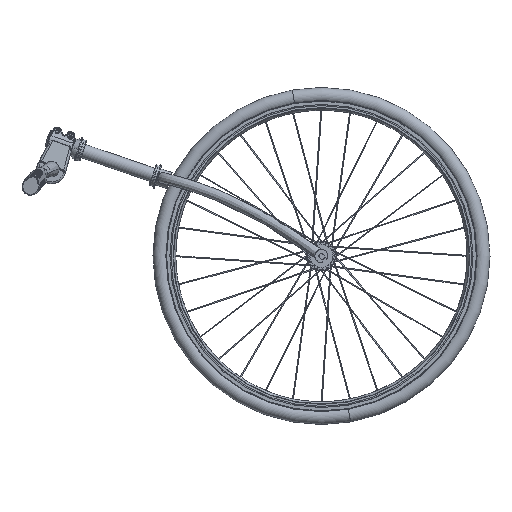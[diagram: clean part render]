
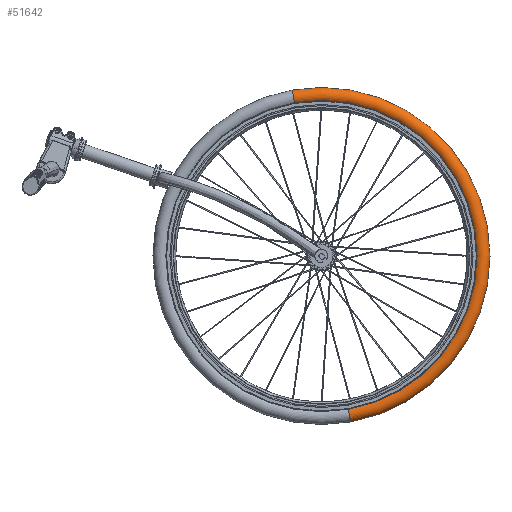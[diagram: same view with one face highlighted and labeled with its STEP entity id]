
A CAD part, left-side view. The second image highlights one B-rep face of the part: STEP entity #51642.
In plain terms, the highlighted toroidal (fillet/blend) face has major radius 330.787 mm and minor radius 16 mm.
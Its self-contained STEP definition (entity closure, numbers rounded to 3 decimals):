
#2559 = CARTESIAN_POINT ( 'NONE',  ( 0., 0., -330.787 ) ) ;
#3284 = AXIS2_PLACEMENT_3D ( 'NONE', #7121, #40386, #28229 ) ;
#7121 = CARTESIAN_POINT ( 'NONE',  ( 10.5, 0., 0. ) ) ;
#7433 = FACE_OUTER_BOUND ( 'NONE', #37176, .T. ) ;
#7690 = DIRECTION ( 'NONE',  ( 0., 1., 0. ) ) ;
#8071 = EDGE_CURVE ( 'NONE', #35850, #36355, #35267, .T. ) ;
#8895 = ORIENTED_EDGE ( 'NONE', *, *, #49426, .F. ) ;
#10299 = CIRCLE ( 'NONE', #40537, 16. ) ;
#11709 = DIRECTION ( 'NONE',  ( 0., 0., 1. ) ) ;
#12500 = CARTESIAN_POINT ( 'NONE',  ( -10.5, 0., 0. ) ) ;
#12615 = EDGE_CURVE ( 'NONE', #41858, #35850, #26631, .T. ) ;
#15582 = AXIS2_PLACEMENT_3D ( 'NONE', #40716, #16092, #32598 ) ;
#16092 = DIRECTION ( 'NONE',  ( -1., 0., 0. ) ) ;
#19293 = CARTESIAN_POINT ( 'NONE',  ( -10.5, 0., -318.714 ) ) ;
#21973 = AXIS2_PLACEMENT_3D ( 'NONE', #12500, #37159, #11709 ) ;
#25138 = CARTESIAN_POINT ( 'NONE',  ( 0., 0., 330.787 ) ) ;
#25496 = ORIENTED_EDGE ( 'NONE', *, *, #8071, .T. ) ;
#26631 = CIRCLE ( 'NONE', #3284, 318.714 ) ;
#28138 = ORIENTED_EDGE ( 'NONE', *, *, #12615, .T. ) ;
#28229 = DIRECTION ( 'NONE',  ( 0., 0., -1. ) ) ;
#28402 = AXIS2_PLACEMENT_3D ( 'NONE', #25138, #41640, #28406 ) ;
#28406 = DIRECTION ( 'NONE',  ( 0., 0., -1. ) ) ;
#29425 = TOROIDAL_SURFACE ( 'NONE', #15582, 330.787, 16. ) ;
#29807 = CARTESIAN_POINT ( 'NONE',  ( 10.5, 0., 318.714 ) ) ;
#32598 = DIRECTION ( 'NONE',  ( 0., 0., 1. ) ) ;
#34075 = CIRCLE ( 'NONE', #21973, 318.714 ) ;
#34575 = CARTESIAN_POINT ( 'NONE',  ( 10.5, 0., -318.714 ) ) ;
#35267 = CIRCLE ( 'NONE', #28402, 16. ) ;
#35850 = VERTEX_POINT ( 'NONE', #29807 ) ;
#36355 = VERTEX_POINT ( 'NONE', #50615 ) ;
#37159 = DIRECTION ( 'NONE',  ( 1., 0., 0. ) ) ;
#37176 = EDGE_LOOP ( 'NONE', ( #8895, #28138, #25496, #45666 ) ) ;
#37780 = EDGE_CURVE ( 'NONE', #36355, #38924, #34075, .T. ) ;
#38924 = VERTEX_POINT ( 'NONE', #19293 ) ;
#39910 = DIRECTION ( 'NONE',  ( 0., 0., 1. ) ) ;
#40386 = DIRECTION ( 'NONE',  ( -1., 0., 0. ) ) ;
#40537 = AXIS2_PLACEMENT_3D ( 'NONE', #2559, #7690, #39910 ) ;
#40716 = CARTESIAN_POINT ( 'NONE',  ( 0., 0., 0. ) ) ;
#41640 = DIRECTION ( 'NONE',  ( 0., -1., 0. ) ) ;
#41858 = VERTEX_POINT ( 'NONE', #34575 ) ;
#45666 = ORIENTED_EDGE ( 'NONE', *, *, #37780, .T. ) ;
#49426 = EDGE_CURVE ( 'NONE', #41858, #38924, #10299, .T. ) ;
#50615 = CARTESIAN_POINT ( 'NONE',  ( -10.5, 0., 318.714 ) ) ;
#51642 = ADVANCED_FACE ( 'NONE', ( #7433 ), #29425, .T. ) ;
